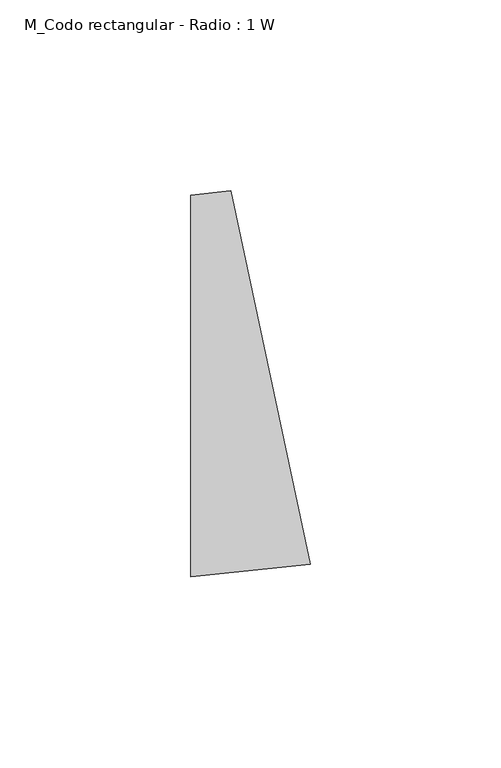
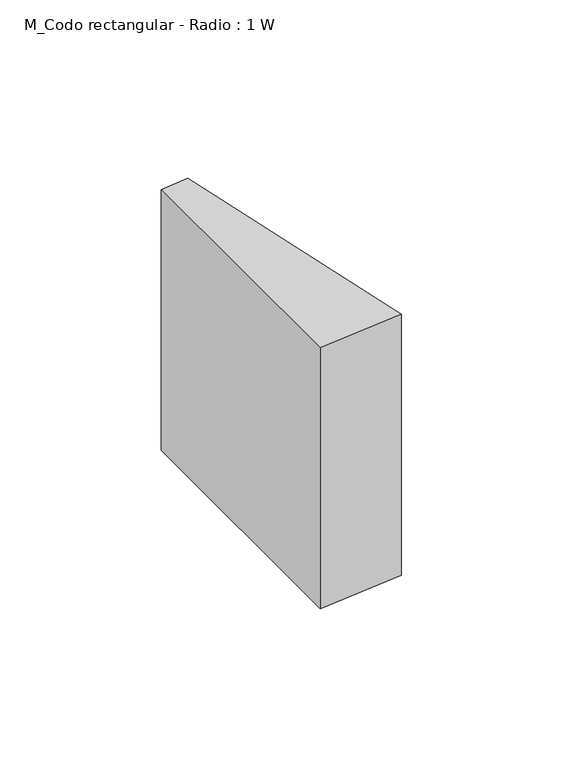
"""IFC4 building model written with IfcOpenShell, lengths in millimetres: duct fitting geometry, M_Codo rectangular - Radio : 1 W."""

from ifc_helpers import new_model, si_unit, point, frame, frame_2d, origin, place, context, project, spatial, polyline, circle_curve, trimmed, segment, composite_curve, outline, extrude, source, transform, mapped, element, save


def m_codo_rectangular_radio_1_w_7389d7fe(model_context):
    return source(origin(), model_context, "Body", "SweptSolid", [
        extrude(outline(composite_curve([segment(trimmed(circle_curve(frame_2d((-10.5104235, 100.0)), 150.0), [point((20.6763301, -46.7221401))], [point((-10.5104235, -50.0))], False, "CARTESIAN"), True, "CONTINUOUS"), segment(polyline([(-10.5104235, -50.0), (-10.5104235, 50.0)]), True, "CONTINUOUS"), segment(trimmed(circle_curve(frame_2d((-10.5104235, 100.0)), 50.0), [point((-10.5104235, 50.0))], [point((-0.114839, 51.09262))], True, "CARTESIAN"), True, "CONTINUOUS"), segment(polyline([(-0.114839, 51.09262), (20.6763301, -46.7221401)]), True, "CONTINUOUS")], self_intersect=False)), frame((0.0, 0.0, -50.0), z_axis=(0.0, 0.0, 1.0), x_axis=(1.0, 0.0, 0.0)), (0.0, 0.0, 1.0), 100.0),
    ])


if __name__ == "__main__":
    model = new_model("IFC4")
    model_context = context("Model", 3, world=origin())
    ifc_project = project(units=[si_unit("LENGTHUNIT", "METRE", prefix="MILLI")], contexts=[model_context])
    site = spatial("IfcSite", under=ifc_project)
    building = spatial("IfcBuilding", under=site)
    placement = place(None, origin())
    m_codo_rectangular_radio_1_w_shape = m_codo_rectangular_radio_1_w_7389d7fe(model_context)
    element("IfcDuctFitting", 1, ObjectType="M_Codo rectangular - Radio : 1 W", at=placement, inside=building, context=model_context, shape_type="MappedRepresentation", body=[
        mapped(m_codo_rectangular_radio_1_w_shape, transform((0.0, 0.0, 0.0), x_axis=(1.0, 0.0, 0.0), y_axis=(0.0, 1.0, 0.0), z_axis=(0.0, 0.0, 1.0))),
    ])
    save(model, "model.ifc")
